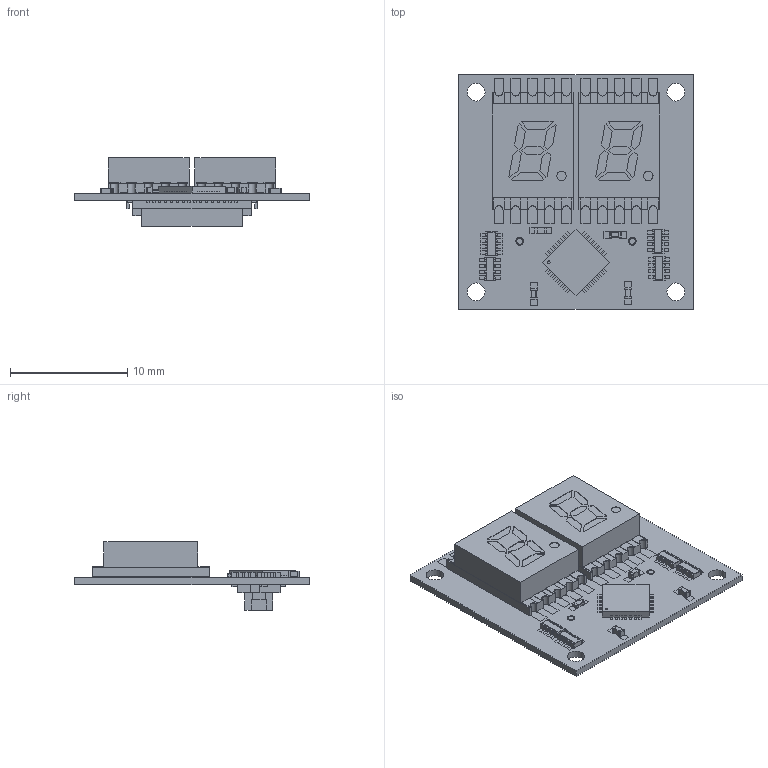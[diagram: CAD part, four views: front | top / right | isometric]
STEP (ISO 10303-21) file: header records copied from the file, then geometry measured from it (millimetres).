
FILE_DESCRIPTION(('FreeCAD Model'),'2;1');
FILE_NAME('/home/devy/MEGA/TinyCircuits/Assets/BoardsANDBoardModels_2/Shields/TinyCircuits-TinyShield-7Segment-ASD2421/cad/TinyShield_7SEGMENT_ASD2421_REV2-STEP.step','2020-07-15T21:12:49',(''),(''), 'Open CASCADE STEP processor 7.4','FreeCAD','Unknown');
FILE_SCHEMA(('AUTOMOTIVE_DESIGN { 1 0 10303 214 1 1 1 1 }'));
Products named in the file (1): TinyShield_7SEGMENT_ASD2421_REV2-STEP
Bounding box: 20 x 20 x 5.85 mm (x, y, z)
Volume: 1256.9 mm3; surface area: 3749.2 mm2
Topology: 331 solids, 331 shells, 3744 faces, 9833 edges, 7603 vertices
Faces by surface type: plane 3378, cylinder 318, sphere 48
Full cylindrical faces by diameter (mm): 0.5 x2, 0.652 x4, 1.502 x8
Entity records: 261505 total; most frequent: CARTESIAN_POINT 41576, DIRECTION 35428, LINE 25600, VECTOR 25600, ORIENTED_EDGE 17746, PCURVE 17746, DEFINITIONAL_REPRESENTATION 17746, EDGE_CURVE 8873
